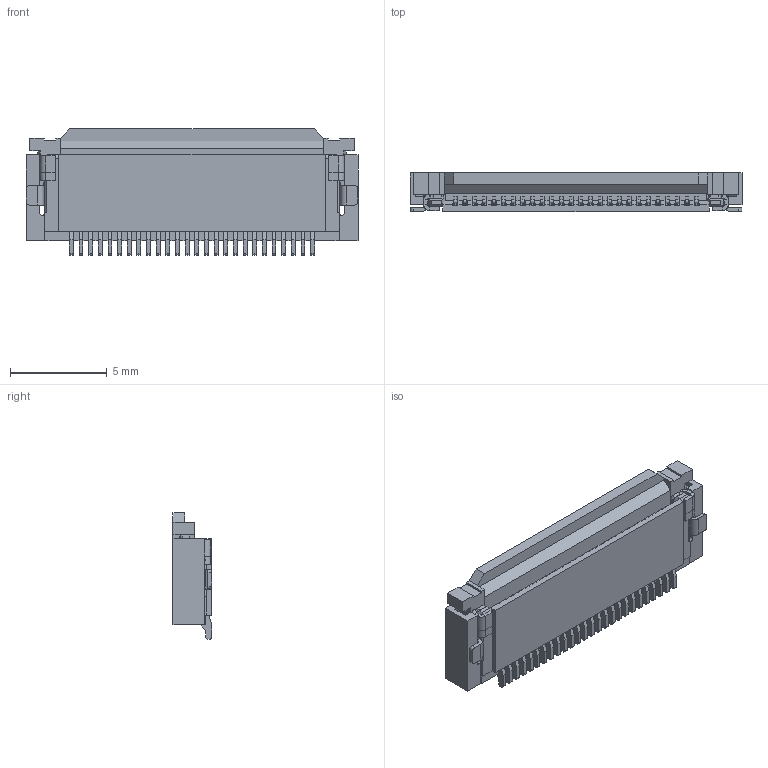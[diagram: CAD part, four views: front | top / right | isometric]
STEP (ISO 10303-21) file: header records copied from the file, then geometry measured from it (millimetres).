
FILE_DESCRIPTION((''),'2;1');
FILE_NAME('ASM0026_ASM','2014-09-23T',('k41758'),(''),'PRO/ENGINEER BY PARAMETRIC TECHNOLOGY CORPORATION, 2009360','PRO/ENGINEER BY PARAMETRIC TECHNOLOGY CORPORATION, 2009360','');
FILE_SCHEMA(('CONFIG_CONTROL_DESIGN'));
Length unit declared in the file: millimetre
Products named in the file (1): ASM0026_ASM
Bounding box: 17.2 x 2.03 x 6.55 mm (x, y, z)
Volume: 120.6 mm3; surface area: 599.3 mm2
Topology: 1 solids, 1 shells, 1672 faces, 5728 edges, 4331 vertices
Faces by surface type: plane 1303, cylinder 369
Entity records: 61152 total; most frequent: CARTESIAN_POINT 11118, ORIENTED_EDGE 10744, DIRECTION 10027, EDGE_CURVE 5372, VECTOR 4731, LINE 4731, VERTEX_POINT 3619, AXIS2_PLACEMENT_3D 2648
